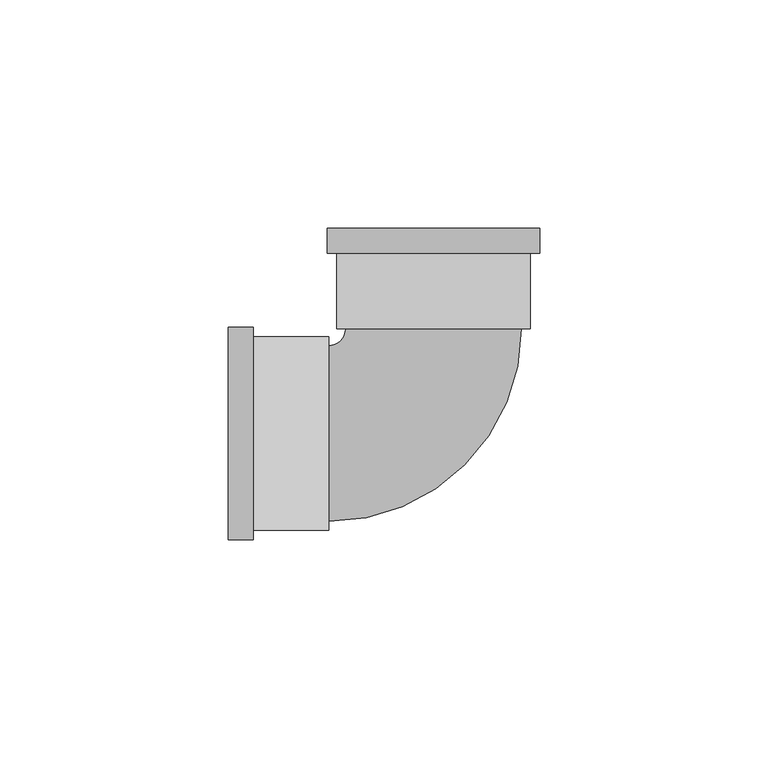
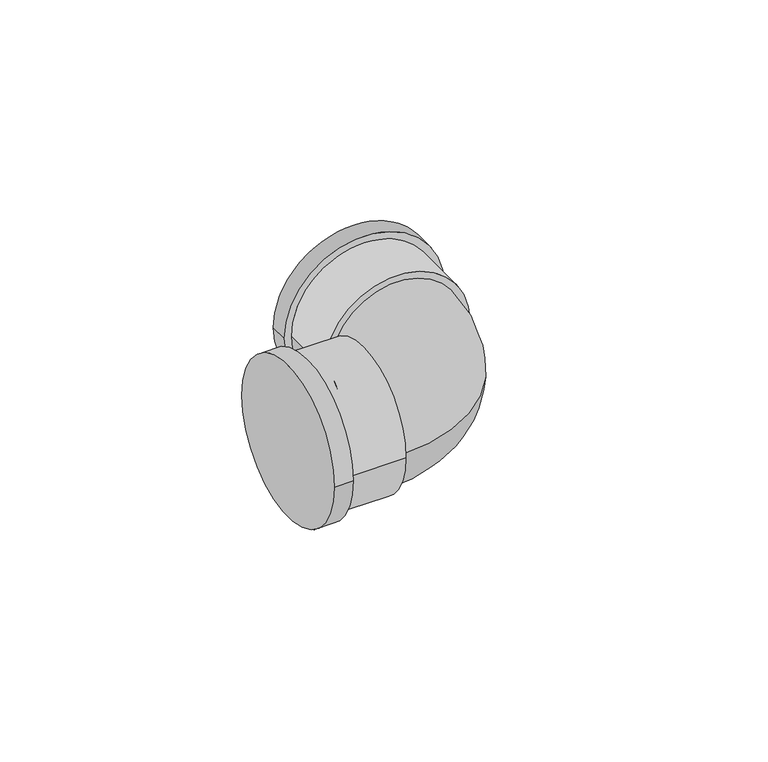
"""IFC4 building model written with IfcOpenShell, lengths in millimetres: pipe fitting geometry, Cotovelo - PVC - CW : Padrão."""

from ifc_helpers import new_model, si_unit, point, frame, origin, place, context, project, spatial, circle_curve, ellipse_curve, trimmed, source, transform, mapped, element, save
from ifc_brep_helpers import plane_surface, cylinder_surface, revolved_surface, advanced_brep


def pipe_fitting_b7b67514(model_context):
    return source(origin(), model_context, "Body", "AdvancedBrep", [
        advanced_brep(
        [(-45.0006991, -23.2925, 0.0), (-45.0006991, 23.2925, 0.0), (-39.5006991, -23.2925, 0.0), (-39.5006991, 23.2925, 0.0), (-39.5006991, -21.175, 0.0), (-39.5006991, 21.175, 0.0), (-23.0006991, 21.175, 0.0), (-23.0006991, -21.175, 0.0), (-23.0006991, -19.25, 0.0), (-23.0006991, 19.25, 0.0), (-19.2506991, 23.000114, 0.0), (19.2493009, 23.0012841, 0.0), (21.1743009, 23.0013426, 0.0), (-21.1756991, 23.0000555, 0.0), (-23.2938677, 44.9999911, 0.0), (23.2911323, 45.001407, 0.0), (21.1737994, 39.5013426, 0.0), (-21.1762005, 39.5000555, 0.0), (-23.2937005, 39.4999911, 0.0), (23.2912994, 39.501407, 0.0)],
        [
            (0, 1, circle_curve(frame((-45.0006991, 0.0, 0.0), z_axis=(-1.0, 0.0, 0.0), x_axis=(0.0, 1.0, 0.0)), 23.2925)),
            (1, 0, circle_curve(frame((-45.0006991, 0.0, 0.0), z_axis=(-1.0, 0.0, 0.0), x_axis=(0.0, 1.0, 0.0)), 23.2925)),
            (2, 3, circle_curve(frame((-39.5006991, 0.0, 0.0), z_axis=(1.0, 0.0, 0.0), x_axis=(0.0, 1.0, 0.0)), 23.2925)),
            (3, 2, circle_curve(frame((-39.5006991, 0.0, 0.0), z_axis=(1.0, 0.0, 0.0), x_axis=(0.0, 1.0, 0.0)), 23.2925)),
            (4, 5, circle_curve(frame((-39.5006991, 0.0, 0.0), z_axis=(-1.0, 0.0, 0.0), x_axis=(0.0, -1.0, 0.0)), 21.175)),
            (5, 4, circle_curve(frame((-39.5006991, 0.0, 0.0), z_axis=(-1.0, 0.0, 0.0), x_axis=(0.0, -1.0, 0.0)), 21.175)),
            (0, 2),
            (3, 1),
            (6, 7, circle_curve(frame((-23.0006991, 0.0, 0.0), z_axis=(1.0, 0.0, 0.0), x_axis=(0.0, -1.0, 0.0)), 21.175)),
            (7, 6, circle_curve(frame((-23.0006991, 0.0, 0.0), z_axis=(1.0, 0.0, 0.0), x_axis=(0.0, -1.0, 0.0)), 21.175)),
            (8, 9, circle_curve(frame((-23.0006991, 0.0, 0.0), z_axis=(-1.0, 0.0, 0.0), x_axis=(0.0, 1.0, 0.0)), 19.25)),
            (9, 8, circle_curve(frame((-23.0006991, 0.0, 0.0), z_axis=(-1.0, 0.0, 0.0), x_axis=(0.0, 1.0, 0.0)), 19.25)),
            (6, 5),
            (4, 7),
            (10, 9, circle_curve(frame((-23.0006991, 23.0, 0.0), z_axis=(0.0, 0.0, -1.0), x_axis=(0.0, -1.0, 0.0)), 3.75)),
            (8, 11, circle_curve(frame((-23.0006991, 23.0, 0.0), z_axis=(0.0, 0.0, 1.0), x_axis=(0.0, -1.0, 0.0)), 42.25)),
            (11, 10, circle_curve(frame((-0.0006991, 23.000699, 0.0), z_axis=(3.0393047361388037e-05, -0.9999999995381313, 0.0), x_axis=(-0.9999999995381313, -3.0393047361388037e-05, 0.0)), 19.25)),
            (10, 11, circle_curve(frame((-0.0006991, 23.000699, 0.0), z_axis=(3.0393047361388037e-05, -0.9999999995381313, 0.0), x_axis=(-0.9999999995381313, -3.0393047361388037e-05, 0.0)), 19.25)),
            (12, 13, circle_curve(frame((-0.0006991, 23.000699, 0.0), z_axis=(3.0393047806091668e-05, -0.9999999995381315, 0.0), x_axis=(-0.9999999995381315, -3.0393047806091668e-05, 0.0)), 21.175)),
            (13, 12, circle_curve(frame((-0.0006991, 23.000699, 0.0), z_axis=(3.0393047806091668e-05, -0.9999999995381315, 0.0), x_axis=(-0.9999999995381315, -3.0393047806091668e-05, 0.0)), 21.175)),
            (14, 15, circle_curve(frame((-0.0013677, 45.000699, 0.0), z_axis=(-3.0393047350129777e-05, 0.9999999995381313, 0.0), x_axis=(0.9999999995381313, 3.0393047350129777e-05, 0.0)), 23.2925)),
            (15, 14, circle_curve(frame((-0.0013677, 45.000699, 0.0), z_axis=(-3.0393047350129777e-05, 0.9999999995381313, 0.0), x_axis=(0.9999999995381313, 3.0393047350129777e-05, 0.0)), 23.2925)),
            (12, 16),
            (16, 17, circle_curve(frame((-0.0012005, 39.500699, 0.0), z_axis=(3.0393047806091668e-05, -0.9999999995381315, 0.0), x_axis=(-0.9999999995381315, -3.0393047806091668e-05, 0.0)), 21.175)),
            (17, 13),
            (17, 16, circle_curve(frame((-0.0012005, 39.500699, 0.0), z_axis=(3.0393047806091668e-05, -0.9999999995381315, 0.0), x_axis=(-0.9999999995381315, -3.0393047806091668e-05, 0.0)), 21.175)),
            (18, 19, circle_curve(frame((-0.0012005, 39.500699, 0.0), z_axis=(3.0393047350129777e-05, -0.9999999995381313, 0.0), x_axis=(0.9999999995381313, 3.0393047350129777e-05, 0.0)), 23.2925)),
            (19, 18, circle_curve(frame((-0.0012005, 39.500699, 0.0), z_axis=(3.0393047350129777e-05, -0.9999999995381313, 0.0), x_axis=(0.9999999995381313, 3.0393047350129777e-05, 0.0)), 23.2925)),
            (14, 18),
            (19, 15),
        ],
        [
            plane_surface(frame((-45.0006991, 0.0, 0.0), z_axis=(-1.0, 0.0, 0.0), x_axis=(0.0, 0.0, 1.0))),
            plane_surface(frame((-39.5006991, 0.0, 0.0), z_axis=(1.0, 0.0, 0.0), x_axis=(0.0, 0.0, 1.0))),
            cylinder_surface(frame((-45.0006991, 0.0, 0.0), z_axis=(-1.0, 0.0, 0.0), x_axis=(0.0, 1.0, 0.0)), 23.2925),
            plane_surface(frame((-23.0006991, 0.0, 0.0), z_axis=(1.0, 0.0, 0.0), x_axis=(0.0, 0.0, 1.0))),
            cylinder_surface(frame((-23.0006991, 0.0, 0.0), z_axis=(1.0, 0.0, 0.0), x_axis=(0.0, -1.0, 0.0)), 21.175),
            revolved_surface(trimmed(ellipse_curve(frame((-23.0006991, 0.0, 0.0), z_axis=(-1.0, 0.0, 0.0), x_axis=(0.0, 1.0, 0.0)), 19.25, 19.25), [point((-23.0006991, -19.25, 0.0))], [point((-23.0006991, 19.25, 0.0))], True, "CARTESIAN"), (-23.0006991, 23.0, 0.0), (0.0, 0.0, 1.0)),
            revolved_surface(trimmed(ellipse_curve(frame((-23.0006991, 0.0, 0.0), z_axis=(-1.0, 0.0, 0.0), x_axis=(0.0, 1.0, 0.0)), 19.25, 19.25), [point((-23.0006991, 19.25, 0.0))], [point((-23.0006991, -19.25, 0.0))], True, "CARTESIAN"), (-23.0006991, 23.0, 0.0), (0.0, 0.0, 1.0)),
            plane_surface(frame((-0.0006991, 23.000699, 0.0), z_axis=(3.0393047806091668e-05, -0.9999999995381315, 0.0), x_axis=(0.0, 0.0, 1.0))),
            plane_surface(frame((-0.0013677, 45.000699, 0.0), z_axis=(-3.0393047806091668e-05, 0.9999999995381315, 0.0), x_axis=(0.0, 0.0, 1.0))),
            cylinder_surface(frame((-0.0006991, 23.000699, 0.0), z_axis=(3.0393047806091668e-05, -0.9999999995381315, 0.0), x_axis=(-0.9999999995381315, -3.0393047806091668e-05, 0.0)), 21.175),
            plane_surface(frame((-0.0012005, 39.500699, 0.0), z_axis=(3.0393047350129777e-05, -0.9999999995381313, 0.0), x_axis=(0.0, 0.0, 1.0))),
            cylinder_surface(frame((-0.0013677, 45.000699, 0.0), z_axis=(-3.0393047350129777e-05, 0.9999999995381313, 0.0), x_axis=(0.9999999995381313, 3.0393047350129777e-05, 0.0)), 23.2925),
        ],
        [
            (0, [[1, 2]]),
            (1, [[3, 4], [5, 6]]),
            (2, [[-1, 7, -4, 8]]),
            (2, [[-2, -8, -3, -7]]),
            (3, [[9, 10], [11, 12]]),
            (4, [[-9, 13, -5, 14]]),
            (4, [[-10, -14, -6, -13]]),
            (5, [[15, -11, 16, 17]]),
            (6, [[-15, 18, -16, -12]]),
            (7, [[19, 20], [-17, -18]]),
            (8, [[21, 22]]),
            (9, [[-19, 23, 24, 25]]),
            (9, [[-20, -25, 26, -23]]),
            (10, [[27, 28], [-24, -26]]),
            (11, [[-21, 29, -28, 30]]),
            (11, [[-22, -30, -27, -29]]),
        ],
    ),
    ])


if __name__ == "__main__":
    model = new_model("IFC4")
    model_context = context("Model", 3, world=origin())
    ifc_project = project(units=[si_unit("LENGTHUNIT", "METRE", prefix="MILLI")], contexts=[model_context])
    site = spatial("IfcSite", under=ifc_project)
    building = spatial("IfcBuilding", under=site)
    placement = place(None, origin())
    pipe_fitting_shape = pipe_fitting_b7b67514(model_context)
    element("IfcPipeFitting", 1, ObjectType="Cotovelo - PVC - CW : Padrão", at=placement, inside=building, context=model_context, shape_type="MappedRepresentation", body=[
        mapped(pipe_fitting_shape, transform((0.0, 0.0, 0.0), x_axis=(1.0, 0.0, 0.0), y_axis=(0.0, 1.0, 0.0), z_axis=(0.0, 0.0, 1.0))),
    ])
    save(model, "model.ifc")
